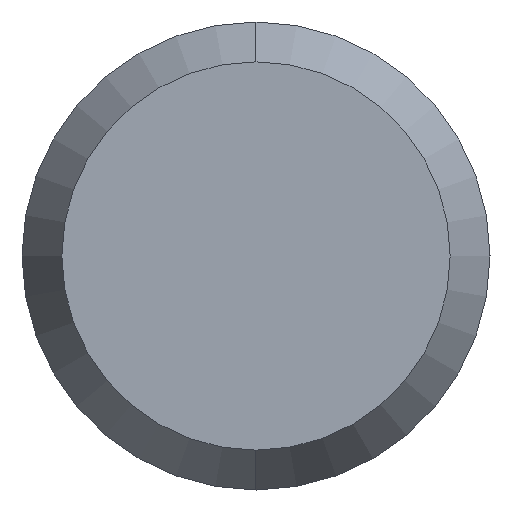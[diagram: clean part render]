
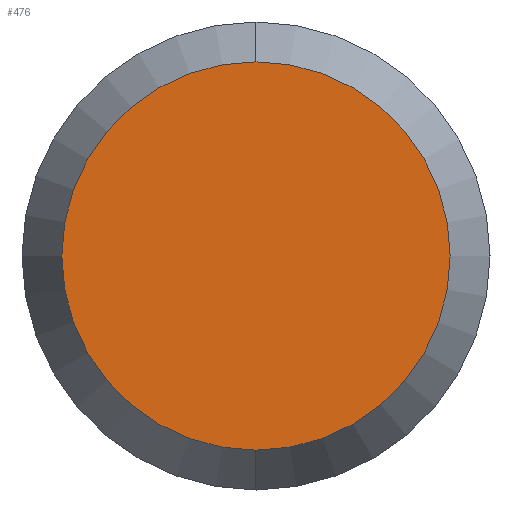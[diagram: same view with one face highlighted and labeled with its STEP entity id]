
A CAD part, left-side view. The second image highlights one B-rep face of the part: STEP entity #476.
In plain terms, the highlighted planar face has unit normal (-1, 0, 0).
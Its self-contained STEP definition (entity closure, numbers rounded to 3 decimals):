
#44 = CARTESIAN_POINT ( 'NONE',  ( -7.3, 0., 1.95 ) ) ;
#87 = CIRCLE ( 'NONE', #931, 1.95 ) ;
#163 = CIRCLE ( 'NONE', #769, 1.95 ) ;
#184 = DIRECTION ( 'NONE',  ( 0., 0., 1. ) ) ;
#196 = DIRECTION ( 'NONE',  ( -1., 0., 0. ) ) ;
#201 = VERTEX_POINT ( 'NONE', #252 ) ;
#203 = EDGE_CURVE ( 'NONE', #330, #201, #87, .T. ) ;
#244 = CARTESIAN_POINT ( 'NONE',  ( -7.3, 0., 0. ) ) ;
#247 = DIRECTION ( 'NONE',  ( 0., 0., -1. ) ) ;
#252 = CARTESIAN_POINT ( 'NONE',  ( -7.3, 0., -1.95 ) ) ;
#259 = ORIENTED_EDGE ( 'NONE', *, *, #203, .F. ) ;
#263 = CARTESIAN_POINT ( 'NONE',  ( -7.3, 0., 0. ) ) ;
#309 = DIRECTION ( 'NONE',  ( 1., 0., 0. ) ) ;
#330 = VERTEX_POINT ( 'NONE', #44 ) ;
#375 = EDGE_CURVE ( 'NONE', #201, #330, #163, .T. ) ;
#442 = ORIENTED_EDGE ( 'NONE', *, *, #375, .F. ) ;
#476 = ADVANCED_FACE ( 'NONE', ( #550 ), #553, .T. ) ;
#497 = AXIS2_PLACEMENT_3D ( 'NONE', #833, #196, #184 ) ;
#550 = FACE_OUTER_BOUND ( 'NONE', #711, .T. ) ;
#553 = PLANE ( 'NONE',  #497 ) ;
#556 = DIRECTION ( 'NONE',  ( 1., 0., 0. ) ) ;
#711 = EDGE_LOOP ( 'NONE', ( #442, #259 ) ) ;
#769 = AXIS2_PLACEMENT_3D ( 'NONE', #263, #556, #903 ) ;
#833 = CARTESIAN_POINT ( 'NONE',  ( -7.3, 1.95, 0. ) ) ;
#903 = DIRECTION ( 'NONE',  ( 0., 0., -1. ) ) ;
#931 = AXIS2_PLACEMENT_3D ( 'NONE', #244, #309, #247 ) ;
